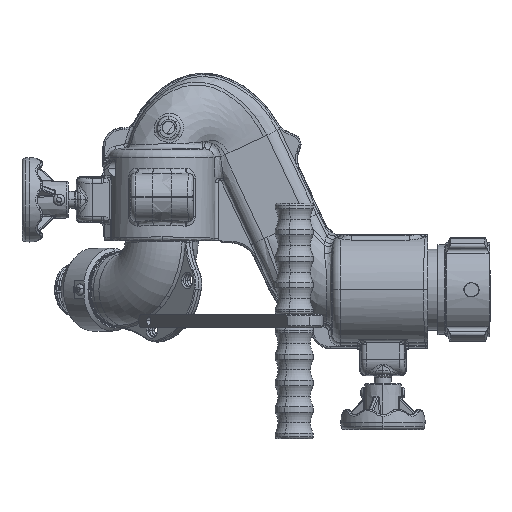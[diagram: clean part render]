
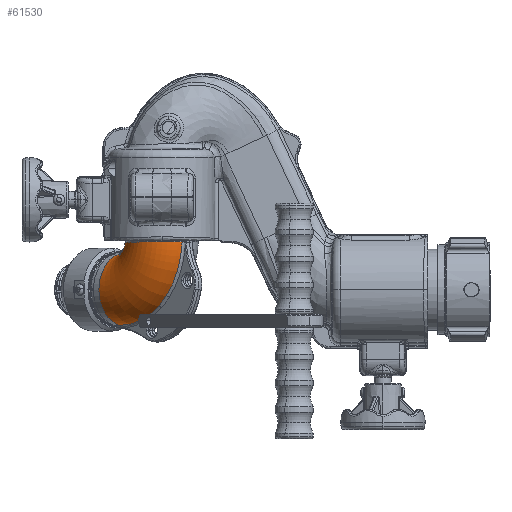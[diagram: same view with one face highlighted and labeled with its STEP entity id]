
A CAD part, left-side view. The second image highlights one B-rep face of the part: STEP entity #61530.
In plain terms, the highlighted toroidal (fillet/blend) face has major radius 50.8 mm and minor radius 34.925 mm.
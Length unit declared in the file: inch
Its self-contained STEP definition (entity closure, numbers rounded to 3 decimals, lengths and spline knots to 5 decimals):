
#1516 = CARTESIAN_POINT ( 'NONE',  ( -1.62289, 6.73431, 1.8105 ) ) ;
#1799 = AXIS2_PLACEMENT_3D ( 'NONE', #59534, #68734, #77662 ) ;
#5604 = VERTEX_POINT ( 'NONE', #95687 ) ;
#6101 = CIRCLE ( 'NONE', #1799, 0.65517 ) ;
#6187 = DIRECTION ( 'NONE',  ( -0.707, 0.707, 0. ) ) ;
#8580 = CARTESIAN_POINT ( 'NONE',  ( -1.61585, 6.63534, 1.8108 ) ) ;
#8941 = CARTESIAN_POINT ( 'NONE',  ( -0.17875, 8.14213, 1.77667 ) ) ;
#11629 = DIRECTION ( 'NONE',  ( -0.707, -0.707, 0. ) ) ;
#14265 = CIRCLE ( 'NONE', #53600, 1.375 ) ;
#15735 = DIRECTION ( 'NONE',  ( -0.707, -0.707, 0. ) ) ;
#17056 = CARTESIAN_POINT ( 'NONE',  ( -0.2383, 8.14207, 1.77894 ) ) ;
#17414 = CARTESIAN_POINT ( 'NONE',  ( -0.15883, 8.14162, 1.77588 ) ) ;
#18145 = CARTESIAN_POINT ( 'NONE',  ( -1.56111, 6.34459, 1.81153 ) ) ;
#19063 = CARTESIAN_POINT ( 'NONE',  ( 0.96166, 8.36677, 1.34483 ) ) ;
#19951 = CARTESIAN_POINT ( 'NONE',  ( 0.3969, 8.01578, 1.74942 ) ) ;
#20116 = DIRECTION ( 'NONE',  ( 0., 0., 1. ) ) ;
#20301 = EDGE_CURVE ( 'NONE', #78783, #5604, #31057, .T. ) ;
#20840 = CARTESIAN_POINT ( 'NONE',  ( 1.16421, 8.16421, 0. ) ) ;
#21253 = CARTESIAN_POINT ( 'NONE',  ( 0.9747, 8.35372, -1.34863 ) ) ;
#22423 = EDGE_LOOP ( 'NONE', ( #77562, #41186, #41315, #98227 ) ) ;
#22513 = EDGE_CURVE ( 'NONE', #91241, #78783, #38424, .T. ) ;
#25541 = CARTESIAN_POINT ( 'NONE',  ( -1.46944, 6.12549, 1.81189 ) ) ;
#25897 = CARTESIAN_POINT ( 'NONE',  ( -1.58958, 6.45907, 1.81127 ) ) ;
#26253 = CARTESIAN_POINT ( 'NONE',  ( -1.41119, 7.48405, 1.80615 ) ) ;
#26620 = CARTESIAN_POINT ( 'NONE',  ( -1.62164, 6.81302, 1.81022 ) ) ;
#26966 = CARTESIAN_POINT ( 'NONE',  ( -0.7574, 8.03469, 1.79428 ) ) ;
#27328 = CARTESIAN_POINT ( 'NONE',  ( 0.17223, 8.09355, 1.76086 ) ) ;
#31057 = B_SPLINE_CURVE_WITH_KNOTS ( 'NONE', 3,
 ( #68788, #76272, #103274, #59216, #25541, #34066, #102198, #102909, #18145, #25897, #93679, #76636, #42953, #69153, #8580, #1516, #26620, #93321, #35508, #84789, #51452, #59967, #68435, #85872, #76999, #26253, #52153, #85514, #35148, #60675, #102553, #42585, #101830, #94418, #43678, #77720, #26966, #86240, #94779, #44030, #51100, #67706, #68078, #17056, #59594, #8941, #17414, #35863, #36607, #105115, #27328, #53962, #86603, #19951, #53601, #95131 ),
 .UNSPECIFIED., .F., .F.,
 ( 4, 2, 2, 2, 2, 2, 2, 2, 2, 2, 2, 2, 2, 2, 2, 2, 2, 2, 2, 2, 2, 2, 2, 2, 2, 2, 2, 4 ),
 ( 0.11354, 0.11657, 0.11809, 0.11961, 0.12568, 0.12872, 0.13024, 0.13176, 0.13783, 0.14087, 0.1439, 0.14998, 0.15301, 0.15605, 0.16213, 0.16516, 0.1682, 0.17427, 0.17731, 0.18035, 0.18642, 0.18946, 0.19097, 0.19249, 0.19857, 0.2016, 0.20464, 0.21071 ),
 .UNSPECIFIED. ) ;
#31460 = EDGE_CURVE ( 'NONE', #5604, #65548, #6101, .T. ) ;
#32599 = TOROIDAL_SURFACE ( 'NONE', #44887, 2., 1.375 ) ;
#33477 = DIRECTION ( 'NONE',  ( -0.707, 0.707, 0. ) ) ;
#34066 = CARTESIAN_POINT ( 'NONE',  ( -1.48707, 6.16112, 1.81184 ) ) ;
#35148 = CARTESIAN_POINT ( 'NONE',  ( -1.26994, 7.67473, 1.80397 ) ) ;
#35508 = CARTESIAN_POINT ( 'NONE',  ( -1.60412, 6.96942, 1.80957 ) ) ;
#35863 = CARTESIAN_POINT ( 'NONE',  ( -0.05979, 8.13706, 1.77185 ) ) ;
#36607 = CARTESIAN_POINT ( 'NONE',  ( 0.01835, 8.12714, 1.76834 ) ) ;
#38424 = CIRCLE ( 'NONE', #73671, 3.34863 ) ;
#41186 = ORIENTED_EDGE ( 'NONE', *, *, #22513, .T. ) ;
#41315 = ORIENTED_EDGE ( 'NONE', *, *, #20301, .T. ) ;
#42585 = CARTESIAN_POINT ( 'NONE',  ( -1.09675, 7.83569, 1.80108 ) ) ;
#42953 = CARTESIAN_POINT ( 'NONE',  ( -1.60946, 6.57594, 1.81097 ) ) ;
#43678 = CARTESIAN_POINT ( 'NONE',  ( -0.90001, 7.9683, 1.7974 ) ) ;
#44030 = CARTESIAN_POINT ( 'NONE',  ( -0.53115, 8.10815, 1.78856 ) ) ;
#44887 = AXIS2_PLACEMENT_3D ( 'NONE', #48314, #6187, #15735 ) ;
#48314 = CARTESIAN_POINT ( 'NONE',  ( 1.16421, 8.16421, 2. ) ) ;
#51100 = CARTESIAN_POINT ( 'NONE',  ( -0.45398, 8.12347, 1.78631 ) ) ;
#51452 = CARTESIAN_POINT ( 'NONE',  ( -1.58029, 7.08617, 1.80899 ) ) ;
#52153 = CARTESIAN_POINT ( 'NONE',  ( -1.38948, 7.51767, 1.80582 ) ) ;
#53600 = AXIS2_PLACEMENT_3D ( 'NONE', #20840, #11629, #20116 ) ;
#53601 = CARTESIAN_POINT ( 'NONE',  ( 0.46783, 7.98145, 1.74588 ) ) ;
#53962 = CARTESIAN_POINT ( 'NONE',  ( 0.24823, 8.07127, 1.75701 ) ) ;
#57820 = CARTESIAN_POINT ( 'NONE',  ( -1.3894, 5.98962, 1.81204 ) ) ;
#59216 = CARTESIAN_POINT ( 'NONE',  ( -1.46027, 6.10793, 1.81191 ) ) ;
#59534 = CARTESIAN_POINT ( 'NONE',  ( 0.96166, 8.36677, 2. ) ) ;
#59594 = CARTESIAN_POINT ( 'NONE',  ( -0.21849, 8.14236, 1.7782 ) ) ;
#59967 = CARTESIAN_POINT ( 'NONE',  ( -1.54817, 7.20071, 1.80836 ) ) ;
#60675 = CARTESIAN_POINT ( 'NONE',  ( -1.18642, 7.75806, 1.8026 ) ) ;
#61530 = ADVANCED_FACE ( 'NONE', ( #92217 ), #32599, .T. ) ;
#65548 = VERTEX_POINT ( 'NONE', #19063 ) ;
#66019 = CARTESIAN_POINT ( 'NONE',  ( 0.9747, 8.35372, 2. ) ) ;
#67706 = CARTESIAN_POINT ( 'NONE',  ( -0.33684, 8.13706, 1.78247 ) ) ;
#68078 = CARTESIAN_POINT ( 'NONE',  ( -0.29757, 8.14001, 1.78111 ) ) ;
#68435 = CARTESIAN_POINT ( 'NONE',  ( -1.52046, 7.27437, 1.80788 ) ) ;
#68734 = DIRECTION ( 'NONE',  ( 0.707, -0.707, 0. ) ) ;
#68788 = CARTESIAN_POINT ( 'NONE',  ( -1.3894, 5.98962, 1.81204 ) ) ;
#69153 = CARTESIAN_POINT ( 'NONE',  ( -1.61401, 6.61547, 1.81086 ) ) ;
#73671 = AXIS2_PLACEMENT_3D ( 'NONE', #66019, #33477, #101236 ) ;
#76272 = CARTESIAN_POINT ( 'NONE',  ( -1.41124, 6.02231, 1.81201 ) ) ;
#76636 = CARTESIAN_POINT ( 'NONE',  ( -1.60677, 6.55629, 1.81103 ) ) ;
#76999 = CARTESIAN_POINT ( 'NONE',  ( -1.45125, 7.41572, 1.80678 ) ) ;
#77562 = ORIENTED_EDGE ( 'NONE', *, *, #94182, .T. ) ;
#77662 = DIRECTION ( 'NONE',  ( 0.707, 0.707, 0. ) ) ;
#77720 = CARTESIAN_POINT ( 'NONE',  ( -0.79362, 8.01918, 1.7951 ) ) ;
#78783 = VERTEX_POINT ( 'NONE', #57820 ) ;
#84789 = CARTESIAN_POINT ( 'NONE',  ( -1.58941, 7.04721, 1.80919 ) ) ;
#85514 = CARTESIAN_POINT ( 'NONE',  ( -1.32075, 7.61468, 1.80476 ) ) ;
#85872 = CARTESIAN_POINT ( 'NONE',  ( -1.46971, 7.38088, 1.80707 ) ) ;
#86240 = CARTESIAN_POINT ( 'NONE',  ( -0.68341, 8.06277, 1.79252 ) ) ;
#86603 = CARTESIAN_POINT ( 'NONE',  ( 0.28605, 8.05849, 1.75507 ) ) ;
#91241 = VERTEX_POINT ( 'NONE', #21253 ) ;
#92217 = FACE_OUTER_BOUND ( 'NONE', #22423, .T. ) ;
#93321 = CARTESIAN_POINT ( 'NONE',  ( -1.60976, 6.9304, 1.80974 ) ) ;
#93679 = CARTESIAN_POINT ( 'NONE',  ( -1.59745, 6.49768, 1.81118 ) ) ;
#94182 = EDGE_CURVE ( 'NONE', #65548, #91241, #14265, .T. ) ;
#94418 = CARTESIAN_POINT ( 'NONE',  ( -0.96791, 7.9286, 1.79873 ) ) ;
#94779 = CARTESIAN_POINT ( 'NONE',  ( -0.64547, 8.07538, 1.79157 ) ) ;
#95131 = CARTESIAN_POINT ( 'NONE',  ( 0.53548, 7.94059, 1.74312 ) ) ;
#95687 = CARTESIAN_POINT ( 'NONE',  ( 0.53548, 7.94059, 1.74312 ) ) ;
#98227 = ORIENTED_EDGE ( 'NONE', *, *, #31460, .T. ) ;
#101236 = DIRECTION ( 'NONE',  ( 0.707, 0.707, 0. ) ) ;
#101830 = CARTESIAN_POINT ( 'NONE',  ( -1.06506, 7.86011, 1.80051 ) ) ;
#102198 = CARTESIAN_POINT ( 'NONE',  ( -1.49553, 6.17921, 1.81181 ) ) ;
#102553 = CARTESIAN_POINT ( 'NONE',  ( -1.15736, 7.7847, 1.80212 ) ) ;
#102909 = CARTESIAN_POINT ( 'NONE',  ( -1.53567, 6.27006, 1.81167 ) ) ;
#103274 = CARTESIAN_POINT ( 'NONE',  ( -1.43169, 6.05597, 1.81198 ) ) ;
#105115 = CARTESIAN_POINT ( 'NONE',  ( 0.13396, 8.1031, 1.76277 ) ) ;
